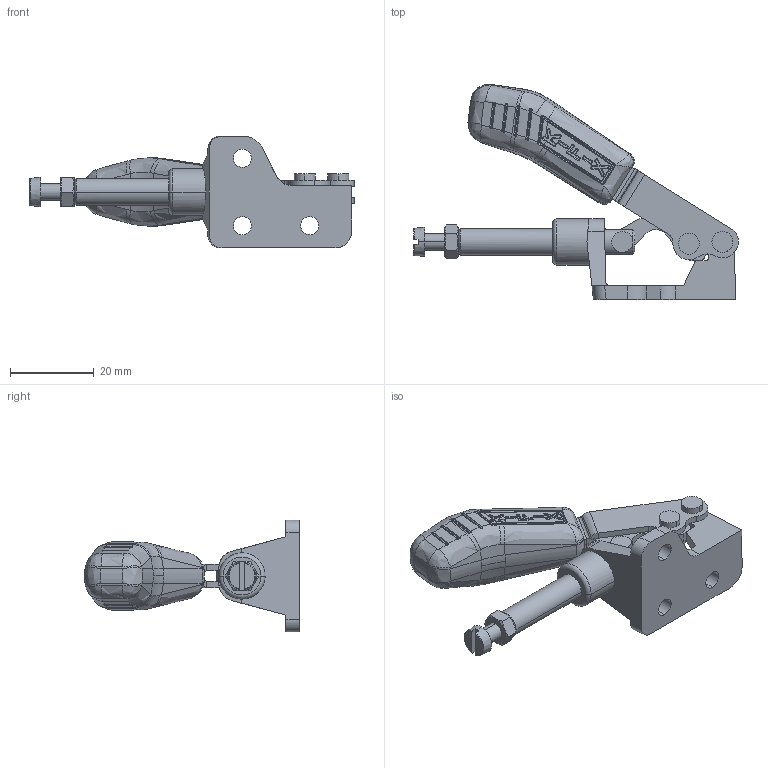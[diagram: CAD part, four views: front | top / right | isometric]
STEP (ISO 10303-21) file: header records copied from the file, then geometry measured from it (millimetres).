
FILE_DESCRIPTION (( 'STEP AP203' ), '1' );
FILE_NAME ('KF-061.STEP', '2014-08-25T18:32:50', ( 'Ricardo' ), ( '' ), 'SwSTEP 2.0', 'SolidWorks 2013', '' );
FILE_SCHEMA (( 'CONFIG_CONTROL_DESIGN' ));
Length unit declared in the file: millimetre
Products named in the file (11): 06.50048; 07.60004; 12.50053; 11.50007; 01.10153; PP-M4; 01.10153_Esquerda; KF-061; 02.30022; 03.20061; 08.10060
Assembly tree (12 placements, depth 3):
  KF-061
    01.10153
    01.10153_Esquerda
    02.30022
    03.20061
    08.10060
    06.50048  x3
    07.60004
    PP-M4
      12.50053
      11.50007
Bounding box: 77.35 x 51.21 x 26.67 mm (x, y, z)
Volume: 12711.4 mm3; surface area: 10954.1 mm2
Topology: 11 solids, 11 shells, 897 faces, 2263 edges, 1379 vertices
Faces by surface type: cylinder 316, bspline 256, plane 246, sphere 52, cone 20, torus 7
Entity records: 32000 total; most frequent: CARTESIAN_POINT 12329, ORIENTED_EDGE 4402, DIRECTION 3206, EDGE_CURVE 2201, VERTEX_POINT 1347, AXIS2_PLACEMENT_3D 1239, EDGE_LOOP 926, FACE_OUTER_BOUND 883
